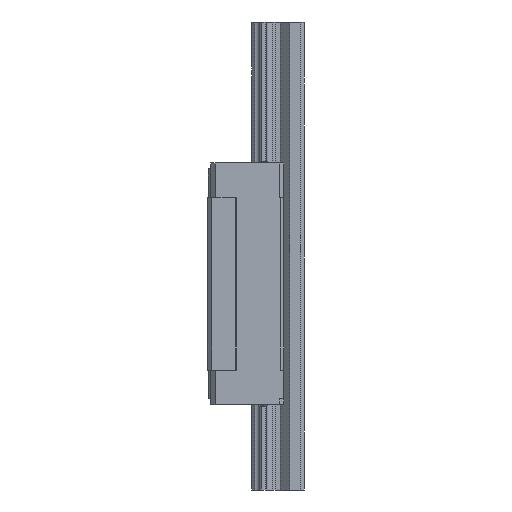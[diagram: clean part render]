
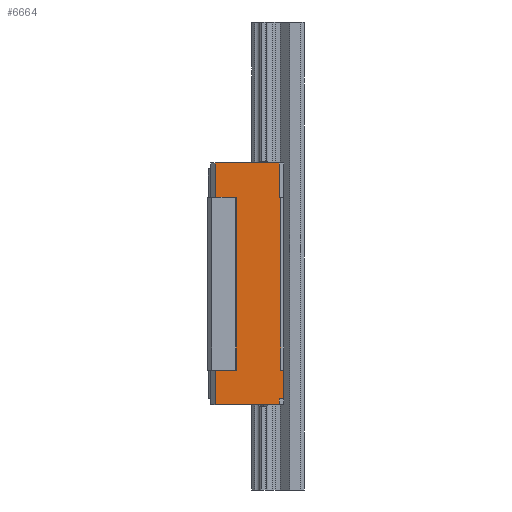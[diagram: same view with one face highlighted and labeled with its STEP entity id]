
A CAD part, left-side view. The second image highlights one B-rep face of the part: STEP entity #6664.
In plain terms, the highlighted planar face has unit normal (-1, 0, 0).
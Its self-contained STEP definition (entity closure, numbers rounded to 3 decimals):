
#66 = VECTOR ( 'NONE', #2886, 1000. ) ;
#108 = ORIENTED_EDGE ( 'NONE', *, *, #6776, .T. ) ;
#222 = ORIENTED_EDGE ( 'NONE', *, *, #4960, .F. ) ;
#301 = CARTESIAN_POINT ( 'NONE',  ( -23.7, 12.5, -59. ) ) ;
#360 = CARTESIAN_POINT ( 'NONE',  ( -23.7, 5.3, -59. ) ) ;
#372 = PLANE ( 'NONE',  #9907 ) ;
#475 = VECTOR ( 'NONE', #1298, 1000. ) ;
#572 = ORIENTED_EDGE ( 'NONE', *, *, #2161, .T. ) ;
#625 = DIRECTION ( 'NONE',  ( 0., -1., 0. ) ) ;
#628 = VECTOR ( 'NONE', #625, 1000. ) ;
#656 = VECTOR ( 'NONE', #3414, 1000. ) ;
#941 = EDGE_CURVE ( 'NONE', #2532, #3396, #1818, .T. ) ;
#983 = CARTESIAN_POINT ( 'NONE',  ( -23.7, -9.9, -59. ) ) ;
#1214 = CARTESIAN_POINT ( 'NONE',  ( -23.7, 15., -68.8 ) ) ;
#1217 = CARTESIAN_POINT ( 'NONE',  ( -23.7, 12.5, -59. ) ) ;
#1298 = DIRECTION ( 'NONE',  ( 0., 1., 0. ) ) ;
#1320 = EDGE_CURVE ( 'NONE', #4104, #1981, #5653, .T. ) ;
#1390 = CARTESIAN_POINT ( 'NONE',  ( -23.7, 0., 0. ) ) ;
#1722 = FACE_OUTER_BOUND ( 'NONE', #4757, .T. ) ;
#1729 = CARTESIAN_POINT ( 'NONE',  ( -23.7, 14., -59. ) ) ;
#1818 = LINE ( 'NONE', #1214, #7921 ) ;
#1854 = DIRECTION ( 'NONE',  ( 0., -1., 0. ) ) ;
#1879 = LINE ( 'NONE', #983, #7258 ) ;
#1972 = CARTESIAN_POINT ( 'NONE',  ( -23.7, 0., 0. ) ) ;
#1973 = EDGE_CURVE ( 'NONE', #2532, #9867, #6625, .T. ) ;
#1981 = VERTEX_POINT ( 'NONE', #5095 ) ;
#2071 = VERTEX_POINT ( 'NONE', #8408 ) ;
#2112 = DIRECTION ( 'NONE',  ( 0., 0., 1. ) ) ;
#2161 = EDGE_CURVE ( 'NONE', #9580, #3700, #5890, .T. ) ;
#2194 = CARTESIAN_POINT ( 'NONE',  ( -23.7, -9.5, 0. ) ) ;
#2282 = VECTOR ( 'NONE', #2584, 1000. ) ;
#2463 = CARTESIAN_POINT ( 'NONE',  ( -23.7, -9.9, 0. ) ) ;
#2468 = VERTEX_POINT ( 'NONE', #3971 ) ;
#2532 = VERTEX_POINT ( 'NONE', #9747 ) ;
#2573 = DIRECTION ( 'NONE',  ( 0., -1., 0. ) ) ;
#2584 = DIRECTION ( 'NONE',  ( 0., -1., 0. ) ) ;
#2658 = LINE ( 'NONE', #4226, #656 ) ;
#2670 = DIRECTION ( 'NONE',  ( 0., 1., 0. ) ) ;
#2821 = VERTEX_POINT ( 'NONE', #6826 ) ;
#2855 = CARTESIAN_POINT ( 'NONE',  ( -23.7, 12.5, -70.8 ) ) ;
#2886 = DIRECTION ( 'NONE',  ( 0., 0., -1. ) ) ;
#3018 = CARTESIAN_POINT ( 'NONE',  ( -23.7, 5.3, -59. ) ) ;
#3045 = EDGE_CURVE ( 'NONE', #8572, #6585, #2658, .T. ) ;
#3054 = ORIENTED_EDGE ( 'NONE', *, *, #7093, .F. ) ;
#3106 = CARTESIAN_POINT ( 'NONE',  ( -23.7, 15., -70.8 ) ) ;
#3177 = VECTOR ( 'NONE', #4934, 1000. ) ;
#3200 = DIRECTION ( 'NONE',  ( 0., 1., 0. ) ) ;
#3391 = ORIENTED_EDGE ( 'NONE', *, *, #7498, .F. ) ;
#3396 = VERTEX_POINT ( 'NONE', #6436 ) ;
#3414 = DIRECTION ( 'NONE',  ( 0., -1., 0. ) ) ;
#3428 = EDGE_CURVE ( 'NONE', #2071, #2821, #8581, .T. ) ;
#3700 = VERTEX_POINT ( 'NONE', #2194 ) ;
#3820 = LINE ( 'NONE', #9043, #66 ) ;
#3927 = ORIENTED_EDGE ( 'NONE', *, *, #3045, .F. ) ;
#3971 = CARTESIAN_POINT ( 'NONE',  ( -23.7, 12.5, 0. ) ) ;
#4026 = CARTESIAN_POINT ( 'NONE',  ( -23.7, -9.5, -59. ) ) ;
#4077 = EDGE_CURVE ( 'NONE', #2468, #4104, #4292, .T. ) ;
#4104 = VERTEX_POINT ( 'NONE', #6632 ) ;
#4226 = CARTESIAN_POINT ( 'NONE',  ( -23.7, 0., -59. ) ) ;
#4292 = LINE ( 'NONE', #1217, #9282 ) ;
#4425 = EDGE_CURVE ( 'NONE', #6585, #8571, #7230, .T. ) ;
#4665 = ORIENTED_EDGE ( 'NONE', *, *, #9256, .F. ) ;
#4668 = EDGE_CURVE ( 'NONE', #1981, #3700, #9355, .T. ) ;
#4757 = EDGE_LOOP ( 'NONE', ( #6751, #6897, #222, #7285, #4665, #572, #8846, #5491, #8436, #108, #6075, #3927, #3054, #3391 ) ) ;
#4918 = DIRECTION ( 'NONE',  ( 0., 0., -1. ) ) ;
#4934 = DIRECTION ( 'NONE',  ( 0., 0., 1. ) ) ;
#4960 = EDGE_CURVE ( 'NONE', #2821, #3396, #3820, .T. ) ;
#5091 = VECTOR ( 'NONE', #8209, 1000. ) ;
#5095 = CARTESIAN_POINT ( 'NONE',  ( -23.7, -9.5, 11.8 ) ) ;
#5424 = VERTEX_POINT ( 'NONE', #2855 ) ;
#5491 = ORIENTED_EDGE ( 'NONE', *, *, #1320, .F. ) ;
#5635 = VECTOR ( 'NONE', #7039, 1000. ) ;
#5653 = LINE ( 'NONE', #9456, #9034 ) ;
#5814 = CARTESIAN_POINT ( 'NONE',  ( -23.7, 5.3, 0. ) ) ;
#5873 = LINE ( 'NONE', #1972, #628 ) ;
#5890 = LINE ( 'NONE', #1390, #475 ) ;
#6075 = ORIENTED_EDGE ( 'NONE', *, *, #4425, .F. ) ;
#6433 = CARTESIAN_POINT ( 'NONE',  ( -23.7, 14., -59. ) ) ;
#6436 = CARTESIAN_POINT ( 'NONE',  ( -23.7, -11., -68.8 ) ) ;
#6585 = VERTEX_POINT ( 'NONE', #3018 ) ;
#6625 = LINE ( 'NONE', #9666, #5091 ) ;
#6632 = CARTESIAN_POINT ( 'NONE',  ( -23.7, 12.5, 11.8 ) ) ;
#6664 = ADVANCED_FACE ( 'NONE', ( #1722 ), #372, .F. ) ;
#6751 = ORIENTED_EDGE ( 'NONE', *, *, #1973, .F. ) ;
#6776 = EDGE_CURVE ( 'NONE', #2468, #8571, #5873, .T. ) ;
#6826 = CARTESIAN_POINT ( 'NONE',  ( -23.7, -11., -59. ) ) ;
#6897 = ORIENTED_EDGE ( 'NONE', *, *, #941, .T. ) ;
#7039 = DIRECTION ( 'NONE',  ( 0., 0., 1. ) ) ;
#7054 = LINE ( 'NONE', #3106, #7796 ) ;
#7093 = EDGE_CURVE ( 'NONE', #5424, #8572, #9544, .T. ) ;
#7230 = LINE ( 'NONE', #360, #5635 ) ;
#7258 = VECTOR ( 'NONE', #4918, 1000. ) ;
#7285 = ORIENTED_EDGE ( 'NONE', *, *, #3428, .F. ) ;
#7498 = EDGE_CURVE ( 'NONE', #9867, #5424, #7054, .T. ) ;
#7796 = VECTOR ( 'NONE', #3200, 1000. ) ;
#7921 = VECTOR ( 'NONE', #2573, 1000. ) ;
#8209 = DIRECTION ( 'NONE',  ( 0., 0., -1. ) ) ;
#8408 = CARTESIAN_POINT ( 'NONE',  ( -23.7, -9.9, -59. ) ) ;
#8436 = ORIENTED_EDGE ( 'NONE', *, *, #4077, .F. ) ;
#8571 = VERTEX_POINT ( 'NONE', #5814 ) ;
#8572 = VERTEX_POINT ( 'NONE', #8874 ) ;
#8581 = LINE ( 'NONE', #1729, #2282 ) ;
#8600 = DIRECTION ( 'NONE',  ( 0., 0., -1. ) ) ;
#8846 = ORIENTED_EDGE ( 'NONE', *, *, #4668, .F. ) ;
#8874 = CARTESIAN_POINT ( 'NONE',  ( -23.7, 12.5, -59. ) ) ;
#9005 = VECTOR ( 'NONE', #8600, 1000. ) ;
#9034 = VECTOR ( 'NONE', #1854, 1000. ) ;
#9043 = CARTESIAN_POINT ( 'NONE',  ( -23.7, -11., -59. ) ) ;
#9256 = EDGE_CURVE ( 'NONE', #9580, #2071, #1879, .T. ) ;
#9282 = VECTOR ( 'NONE', #2112, 1000. ) ;
#9355 = LINE ( 'NONE', #4026, #9005 ) ;
#9456 = CARTESIAN_POINT ( 'NONE',  ( -23.7, 14., 11.8 ) ) ;
#9522 = DIRECTION ( 'NONE',  ( 1., 0., 0. ) ) ;
#9544 = LINE ( 'NONE', #301, #3177 ) ;
#9580 = VERTEX_POINT ( 'NONE', #2463 ) ;
#9666 = CARTESIAN_POINT ( 'NONE',  ( -23.7, -9.5, -59. ) ) ;
#9667 = CARTESIAN_POINT ( 'NONE',  ( -23.7, -9.5, -70.8 ) ) ;
#9747 = CARTESIAN_POINT ( 'NONE',  ( -23.7, -9.5, -68.8 ) ) ;
#9867 = VERTEX_POINT ( 'NONE', #9667 ) ;
#9907 = AXIS2_PLACEMENT_3D ( 'NONE', #6433, #9522, #2670 ) ;
